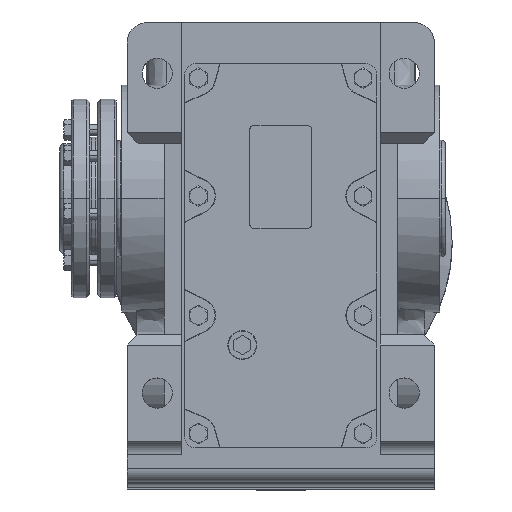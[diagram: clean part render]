
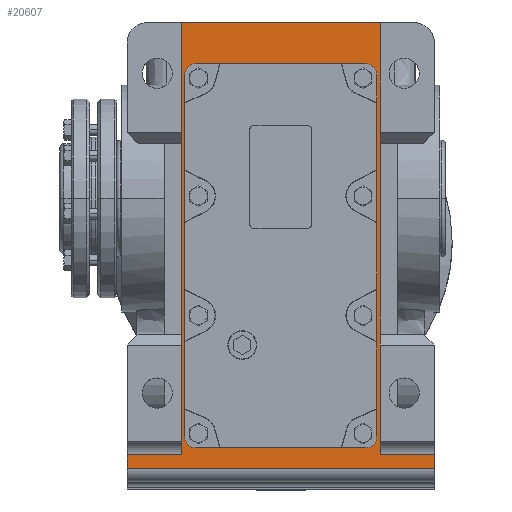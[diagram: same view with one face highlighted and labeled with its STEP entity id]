
A CAD part, top view. The second image highlights one B-rep face of the part: STEP entity #20607.
In plain terms, the highlighted planar face has unit normal (0, 0, 1).
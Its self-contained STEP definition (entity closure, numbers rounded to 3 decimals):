
#460 = EDGE_CURVE ( 'NONE', #41980, #41968, #9618, .T. ) ;
#4769 = CARTESIAN_POINT ( 'NONE',  ( 72.5, -212., 111. ) ) ;
#4771 = DIRECTION ( 'NONE',  ( 0., 1., 0. ) ) ;
#4775 = CARTESIAN_POINT ( 'NONE',  ( -72.5, 128., 111. ) ) ;
#4776 = DIRECTION ( 'NONE',  ( -1., 0., 0. ) ) ;
#4777 = CARTESIAN_POINT ( 'NONE',  ( -72.5, -212., 111. ) ) ;
#4778 = DIRECTION ( 'NONE',  ( 0., 1., 0. ) ) ;
#4983 = AXIS2_PLACEMENT_3D ( 'NONE', #47619, #47628, #47629 ) ;
#9618 = LINE ( 'NONE', #36915, #9620 ) ;
#9620 = VECTOR ( 'NONE', #36913, 1000. ) ;
#10167 = CARTESIAN_POINT ( 'NONE',  ( 112., -197., 111. ) ) ;
#10168 = DIRECTION ( 'NONE',  ( 1., 0., 0. ) ) ;
#10172 = CARTESIAN_POINT ( 'NONE',  ( -72.5, -187., 111. ) ) ;
#10173 = DIRECTION ( 'NONE',  ( -1., 0., 0. ) ) ;
#10177 = CARTESIAN_POINT ( 'NONE',  ( 112., -181., 111. ) ) ;
#10178 = DIRECTION ( 'NONE',  ( 0., 1., 0. ) ) ;
#10182 = CARTESIAN_POINT ( 'NONE',  ( 62., 98., 111. ) ) ;
#10183 = DIRECTION ( 'NONE',  ( -1., 0., 0. ) ) ;
#10195 = CARTESIAN_POINT ( 'NONE',  ( 70., 90., 111. ) ) ;
#10196 = DIRECTION ( 'NONE',  ( 0., 1., 0. ) ) ;
#10201 = CARTESIAN_POINT ( 'NONE',  ( -70., 90., 111. ) ) ;
#10202 = DIRECTION ( 'NONE',  ( 0., -1., 0. ) ) ;
#10203 = CARTESIAN_POINT ( 'NONE',  ( 62., 90., 111. ) ) ;
#10204 = DIRECTION ( 'NONE',  ( 0., 0., 1. ) ) ;
#10205 = DIRECTION ( 'NONE',  ( 1., 0., 0. ) ) ;
#10210 = CARTESIAN_POINT ( 'NONE',  ( 62., -182., 111. ) ) ;
#10211 = DIRECTION ( 'NONE',  ( 1., 0., 0. ) ) ;
#10212 = CARTESIAN_POINT ( 'NONE',  ( -62., 90., 111. ) ) ;
#10213 = DIRECTION ( 'NONE',  ( 0., 0., 1. ) ) ;
#10214 = DIRECTION ( 'NONE',  ( -1., 0., 0. ) ) ;
#10219 = CARTESIAN_POINT ( 'NONE',  ( -62., -174., 111. ) ) ;
#10220 = DIRECTION ( 'NONE',  ( 0., 0., 1. ) ) ;
#10221 = DIRECTION ( 'NONE',  ( 1., 0., 0. ) ) ;
#10226 = CARTESIAN_POINT ( 'NONE',  ( 62., -174., 111. ) ) ;
#10227 = DIRECTION ( 'NONE',  ( 0., 0., 1. ) ) ;
#10228 = DIRECTION ( 'NONE',  ( 1., 0., 0. ) ) ;
#10238 = CARTESIAN_POINT ( 'NONE',  ( -72.5, -187., 111. ) ) ;
#10239 = DIRECTION ( 'NONE',  ( -1., 0., 0. ) ) ;
#15769 = AXIS2_PLACEMENT_3D ( 'NONE', #10203, #10204, #10205 ) ;
#15770 = AXIS2_PLACEMENT_3D ( 'NONE', #10212, #10213, #10214 ) ;
#15771 = AXIS2_PLACEMENT_3D ( 'NONE', #10219, #10220, #10221 ) ;
#15772 = AXIS2_PLACEMENT_3D ( 'NONE', #10226, #10227, #10228 ) ;
#20607 = ADVANCED_FACE ( 'NONE', ( #25996, #25999 ), #47623, .F. ) ;
#21713 = EDGE_CURVE ( 'NONE', #41975, #41761, #28972, .T. ) ;
#21716 = EDGE_CURVE ( 'NONE', #41761, #41760, #28978, .T. ) ;
#21717 = EDGE_CURVE ( 'NONE', #41961, #41760, #28980, .T. ) ;
#22384 = EDGE_CURVE ( 'NONE', #41980, #41977, #29608, .T. ) ;
#22386 = EDGE_CURVE ( 'NONE', #41988, #41975, #29611, .T. ) ;
#22388 = EDGE_CURVE ( 'NONE', #41977, #41988, #29614, .T. ) ;
#22393 = EDGE_CURVE ( 'NONE', #41972, #41970, #29623, .T. ) ;
#22396 = EDGE_CURVE ( 'NONE', #41970, #41969, #29629, .T. ) ;
#22397 = EDGE_CURVE ( 'NONE', #41969, #41973, #29631, .T. ) ;
#22400 = EDGE_CURVE ( 'NONE', #41973, #41967, #29636, .T. ) ;
#22401 = EDGE_CURVE ( 'NONE', #41967, #41971, #29638, .T. ) ;
#22404 = EDGE_CURVE ( 'NONE', #41971, #41965, #29643, .T. ) ;
#22405 = EDGE_CURVE ( 'NONE', #41965, #41974, #29645, .T. ) ;
#22407 = EDGE_CURVE ( 'NONE', #41974, #41972, #29648, .T. ) ;
#22415 = EDGE_CURVE ( 'NONE', #41961, #41968, #29661, .T. ) ;
#25996 = FACE_BOUND ( 'NONE', #51255, .T. ) ;
#25999 = FACE_OUTER_BOUND ( 'NONE', #51250, .T. ) ;
#27647 = ORIENTED_EDGE ( 'NONE', *, *, #22407, .F. ) ;
#27650 = ORIENTED_EDGE ( 'NONE', *, *, #22405, .F. ) ;
#27653 = ORIENTED_EDGE ( 'NONE', *, *, #22404, .F. ) ;
#27656 = ORIENTED_EDGE ( 'NONE', *, *, #22401, .F. ) ;
#27658 = ORIENTED_EDGE ( 'NONE', *, *, #22400, .F. ) ;
#27661 = ORIENTED_EDGE ( 'NONE', *, *, #22397, .F. ) ;
#27665 = ORIENTED_EDGE ( 'NONE', *, *, #22396, .F. ) ;
#27668 = ORIENTED_EDGE ( 'NONE', *, *, #22393, .F. ) ;
#27671 = ORIENTED_EDGE ( 'NONE', *, *, #22388, .T. ) ;
#27674 = ORIENTED_EDGE ( 'NONE', *, *, #22386, .T. ) ;
#27677 = ORIENTED_EDGE ( 'NONE', *, *, #21713, .T. ) ;
#27680 = ORIENTED_EDGE ( 'NONE', *, *, #21716, .T. ) ;
#27683 = ORIENTED_EDGE ( 'NONE', *, *, #21717, .F. ) ;
#27686 = ORIENTED_EDGE ( 'NONE', *, *, #22415, .T. ) ;
#27689 = ORIENTED_EDGE ( 'NONE', *, *, #460, .F. ) ;
#27692 = ORIENTED_EDGE ( 'NONE', *, *, #22384, .T. ) ;
#28060 = CARTESIAN_POINT ( 'NONE',  ( -72.5, 128., 111. ) ) ;
#28062 = CARTESIAN_POINT ( 'NONE',  ( 72.5, 128., 111. ) ) ;
#28278 = CARTESIAN_POINT ( 'NONE',  ( -72.5, -187., 111. ) ) ;
#28282 = CARTESIAN_POINT ( 'NONE',  ( -62., -182., 111. ) ) ;
#28284 = CARTESIAN_POINT ( 'NONE',  ( -70., 90., 111. ) ) ;
#28285 = CARTESIAN_POINT ( 'NONE',  ( -112., -187., 111. ) ) ;
#28286 = CARTESIAN_POINT ( 'NONE',  ( 62., 98., 111. ) ) ;
#28287 = CARTESIAN_POINT ( 'NONE',  ( 70., 90., 111. ) ) ;
#28288 = CARTESIAN_POINT ( 'NONE',  ( -70., -174., 111. ) ) ;
#28289 = CARTESIAN_POINT ( 'NONE',  ( 70., -174., 111. ) ) ;
#28290 = CARTESIAN_POINT ( 'NONE',  ( -62., 98., 111. ) ) ;
#28291 = CARTESIAN_POINT ( 'NONE',  ( 62., -182., 111. ) ) ;
#28292 = CARTESIAN_POINT ( 'NONE',  ( 72.5, -187., 111. ) ) ;
#28294 = CARTESIAN_POINT ( 'NONE',  ( 112., -197., 111. ) ) ;
#28297 = CARTESIAN_POINT ( 'NONE',  ( -112., -197., 111. ) ) ;
#28305 = CARTESIAN_POINT ( 'NONE',  ( 112., -187., 111. ) ) ;
#28972 = LINE ( 'NONE', #4769, #28975 ) ;
#28975 = VECTOR ( 'NONE', #4771, 1000. ) ;
#28978 = LINE ( 'NONE', #4775, #28981 ) ;
#28980 = LINE ( 'NONE', #4777, #28983 ) ;
#28981 = VECTOR ( 'NONE', #4776, 1000. ) ;
#28983 = VECTOR ( 'NONE', #4778, 1000. ) ;
#29608 = LINE ( 'NONE', #10167, #29610 ) ;
#29610 = VECTOR ( 'NONE', #10168, 1000. ) ;
#29611 = LINE ( 'NONE', #10172, #29613 ) ;
#29613 = VECTOR ( 'NONE', #10173, 1000. ) ;
#29614 = LINE ( 'NONE', #10177, #29616 ) ;
#29616 = VECTOR ( 'NONE', #10178, 1000. ) ;
#29623 = LINE ( 'NONE', #10195, #29626 ) ;
#29626 = VECTOR ( 'NONE', #10196, 1000. ) ;
#29629 = CIRCLE ( 'NONE', #15769, 8. ) ;
#29631 = LINE ( 'NONE', #10182, #29633 ) ;
#29633 = VECTOR ( 'NONE', #10183, 1000. ) ;
#29636 = CIRCLE ( 'NONE', #15770, 8. ) ;
#29638 = LINE ( 'NONE', #10201, #29640 ) ;
#29640 = VECTOR ( 'NONE', #10202, 1000. ) ;
#29643 = CIRCLE ( 'NONE', #15771, 8. ) ;
#29645 = LINE ( 'NONE', #10210, #29647 ) ;
#29647 = VECTOR ( 'NONE', #10211, 1000. ) ;
#29648 = CIRCLE ( 'NONE', #15772, 8. ) ;
#29661 = LINE ( 'NONE', #10238, #29663 ) ;
#29663 = VECTOR ( 'NONE', #10239, 1000. ) ;
#36913 = DIRECTION ( 'NONE',  ( 0., 1., 0. ) ) ;
#36915 = CARTESIAN_POINT ( 'NONE',  ( -112., -181., 111. ) ) ;
#41760 = VERTEX_POINT ( 'NONE', #28060 ) ;
#41761 = VERTEX_POINT ( 'NONE', #28062 ) ;
#41961 = VERTEX_POINT ( 'NONE', #28278 ) ;
#41965 = VERTEX_POINT ( 'NONE', #28282 ) ;
#41967 = VERTEX_POINT ( 'NONE', #28284 ) ;
#41968 = VERTEX_POINT ( 'NONE', #28285 ) ;
#41969 = VERTEX_POINT ( 'NONE', #28286 ) ;
#41970 = VERTEX_POINT ( 'NONE', #28287 ) ;
#41971 = VERTEX_POINT ( 'NONE', #28288 ) ;
#41972 = VERTEX_POINT ( 'NONE', #28289 ) ;
#41973 = VERTEX_POINT ( 'NONE', #28290 ) ;
#41974 = VERTEX_POINT ( 'NONE', #28291 ) ;
#41975 = VERTEX_POINT ( 'NONE', #28292 ) ;
#41977 = VERTEX_POINT ( 'NONE', #28294 ) ;
#41980 = VERTEX_POINT ( 'NONE', #28297 ) ;
#41988 = VERTEX_POINT ( 'NONE', #28305 ) ;
#47619 = CARTESIAN_POINT ( 'NONE',  ( -72.5, -212., 111. ) ) ;
#47623 = PLANE ( 'NONE',  #4983 ) ;
#47628 = DIRECTION ( 'NONE',  ( 0., 0., -1. ) ) ;
#47629 = DIRECTION ( 'NONE',  ( 0., 1., 0. ) ) ;
#51250 = EDGE_LOOP ( 'NONE', ( #27671, #27674, #27677, #27680, #27683, #27686, #27689, #27692 ) ) ;
#51255 = EDGE_LOOP ( 'NONE', ( #27647, #27650, #27653, #27656, #27658, #27661, #27665, #27668 ) ) ;
